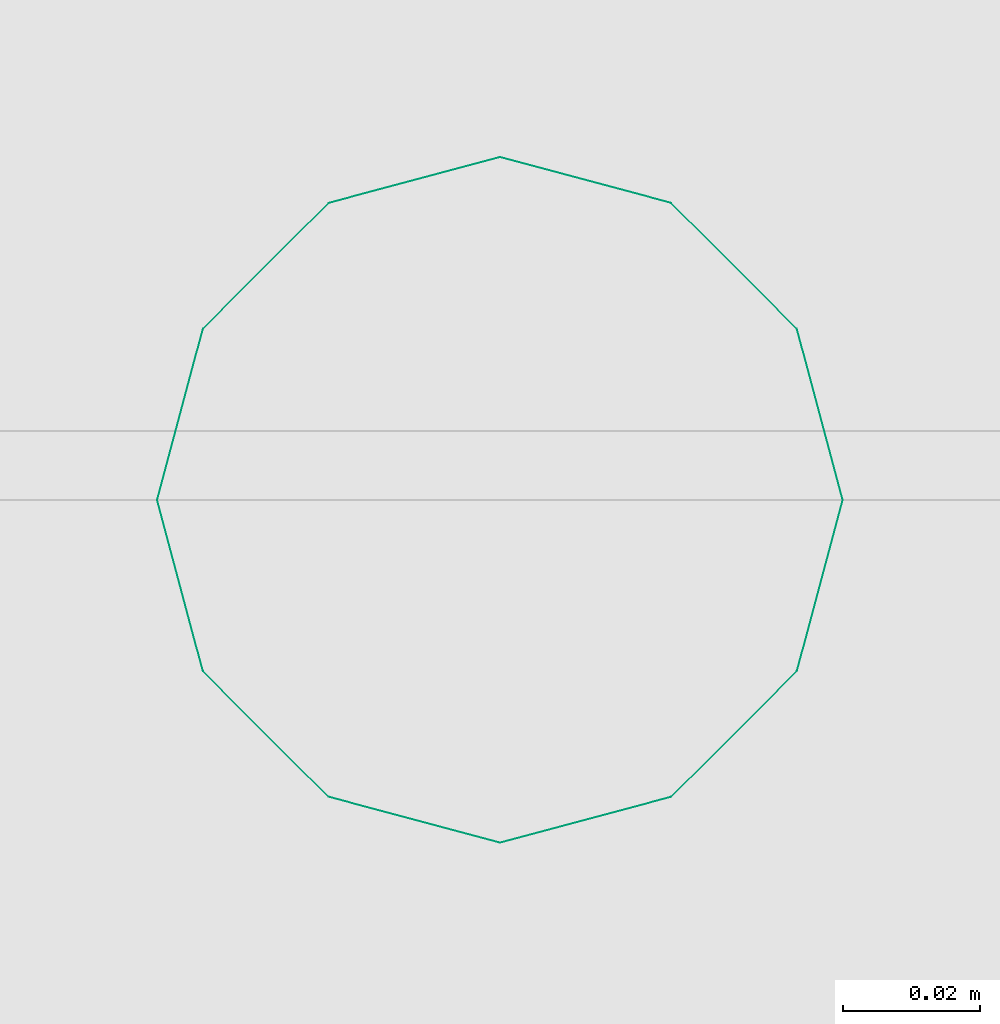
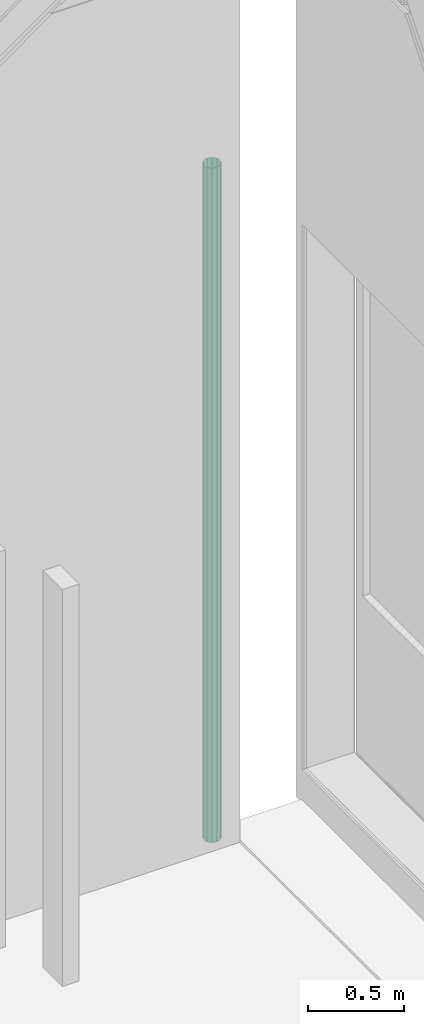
# One storey, part 30 of 35: 1 distribution flow element.
"""IFC2X3 building model written with IfcOpenShell, lengths in millimetres."""

from ifc_helpers import new_model, entity, si_unit, converted_unit, derived_unit, money_unit, direction, frame, origin_with_axes, place, context, subcontext, project, spatial, open_shell, surface_model, source, transform, mapped, type_object, type_shapes, element, save


model = new_model("IFC2X3")

# Units and contexts
model_context = context("Model", 3, precision=0.01, world=origin_with_axes(), true_north=direction((0.0, 1.0)))
body_context = subcontext(model_context, "Body", "Model", "MODEL_VIEW")
ifc_project = project(units=[si_unit("LENGTHUNIT", "METRE", prefix="MILLI"), si_unit("AREAUNIT", "SQUARE_METRE"), si_unit("VOLUMEUNIT", "CUBIC_METRE"), converted_unit("PLANEANGLEUNIT", "DEGREE", entity("IfcPlaneAngleMeasure", 0.0174532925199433), si_unit("PLANEANGLEUNIT", "RADIAN"), dimensions=[0, 0, 0, 0, 0, 0, 0]), money_unit("EUR"), converted_unit("TIMEUNIT", "Year", entity("IfcTimeMeasure", 31557600.0), si_unit("TIMEUNIT", "SECOND"), dimensions=[0, 0, 1, 0, 0, 0, 0]), si_unit("MASSUNIT", "GRAM", prefix="KILO"), si_unit("THERMODYNAMICTEMPERATUREUNIT", "DEGREE_CELSIUS"), si_unit("LUMINOUSINTENSITYUNIT", "LUMEN"), si_unit("ENERGYUNIT", "JOULE", prefix="MEGA"), derived_unit("THERMALCONDUCTANCEUNIT", [(si_unit("POWERUNIT", "WATT"), 1), (si_unit("LENGTHUNIT", "METRE"), -1), (si_unit("THERMODYNAMICTEMPERATUREUNIT", "KELVIN"), -1)]), derived_unit("SPECIFICHEATCAPACITYUNIT", [(si_unit("ENERGYUNIT", "JOULE"), 1), (si_unit("MASSUNIT", "GRAM", prefix="KILO"), -1), (si_unit("THERMODYNAMICTEMPERATUREUNIT", "KELVIN"), -1)]), derived_unit("MASSDENSITYUNIT", [(si_unit("MASSUNIT", "GRAM", prefix="KILO"), 1), (si_unit("VOLUMEUNIT", "CUBIC_METRE"), -1)])], contexts=[model_context])

# Site, building, storey
site_placement = place(None, origin_with_axes())
site = spatial("IfcSite", under=ifc_project, at=site_placement, Name="<site naam>", CompositionType="ELEMENT")
building_placement = place(site_placement, origin_with_axes())
building = spatial("IfcBuilding", under=site, at=building_placement, Name="<Naam gebouw>", CompositionType="ELEMENT")
storey_placement = place(building_placement, frame((0.0, 0.0, 6345.0), z_axis=(0.0, 0.0, 1.0), x_axis=(1.0, 0.0, 0.0)))
storey = spatial("IfcBuildingStorey", under=building, at=storey_placement, Name="02 2e tussenverdieping", CompositionType="ELEMENT", Elevation=6345.0)

# Distribution flow element
valve_type = type_object("IfcValveType", Name="Regenpijp 27", PredefinedType="AIRRELEASE")
shared_shape = source(origin_with_axes(), body_context, "Body", "SurfaceModel", [
    surface_model("IfcShellBasedSurfaceModel", [(-50.0, -30.0, 4272.999999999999), (-50.0, -30.0, 0.0), (-43.30127018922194, -54.99999999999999, 0.0), (-43.30127018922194, -54.99999999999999, 4272.999999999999), (-43.30127018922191, -4.999999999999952, 4272.999999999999), (-43.30127018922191, -4.999999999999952, 0.0), (-25.00000000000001, -73.30127018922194, 0.0), (-25.00000000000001, -73.30127018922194, 4272.999999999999), (-24.99999999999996, 13.30127018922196, 4272.999999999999), (-24.99999999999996, 13.30127018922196, 0.0), (0.0, -80.0, 0.0), (0.0, -80.0, 4272.999999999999), (0.0, 20.0, 4272.999999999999), (0.0, 20.0, 0.0), (24.99999999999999, -73.30127018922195, 0.0), (24.99999999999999, -73.30127018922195, 4272.999999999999), (25.00000000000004, 13.30127018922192, 4272.999999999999), (25.00000000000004, 13.30127018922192, 0.0), (43.30127018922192, -55.00000000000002, 0.0), (43.30127018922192, -55.00000000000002, 4272.999999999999), (43.30127018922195, -5.000000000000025, 4272.999999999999), (43.30127018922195, -5.000000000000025, 0.0), (50.0, -30.00000000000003, 0.0), (50.0, -30.00000000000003, 4272.999999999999)], [open_shell([[[0, 1, 2, 3]], [[4, 5, 1, 0]], [[3, 2, 6, 7]], [[8, 9, 5, 4]], [[7, 6, 10, 11]], [[12, 13, 9, 8]], [[11, 10, 14, 15]], [[16, 17, 13, 12]], [[15, 14, 18, 19]], [[20, 21, 17, 16]], [[19, 18, 22, 23]], [[23, 22, 21, 20]]])]),
])
type_shapes(valve_type, [shared_shape])
distribution_flow_element_placement = place(storey_placement, frame((69225.000113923, 19929.9683199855, 0.0), z_axis=(0.0, 0.0, 1.0), x_axis=(1.0, 0.0, 0.0)))
element("IfcDistributionFlowElement", 1, at=distribution_flow_element_placement, inside=storey, type_object=valve_type, Name="52_Wasmachine_Lege", context=body_context, shape_type="MappedRepresentation", body=[
    mapped(shared_shape, transform((0.0, 0.0, 0.0))),
])

save(model, "model.ifc")
